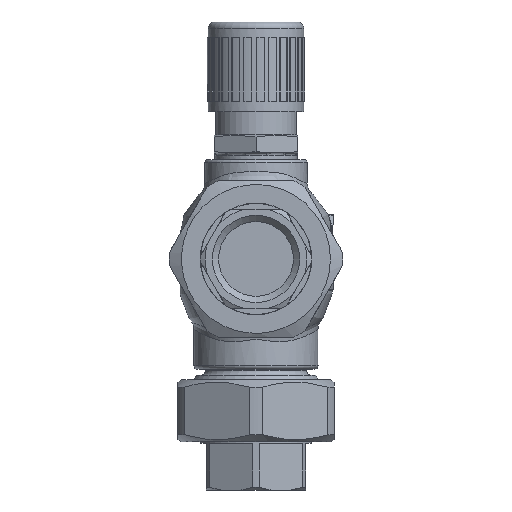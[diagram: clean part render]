
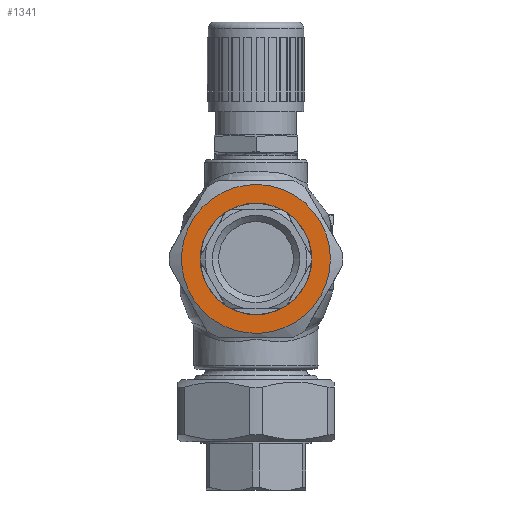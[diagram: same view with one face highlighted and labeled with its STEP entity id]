
A CAD part, left-side view. The second image highlights one B-rep face of the part: STEP entity #1341.
In plain terms, the highlighted planar face has unit normal (-1, 0, 0).
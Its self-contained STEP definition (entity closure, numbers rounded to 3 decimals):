
#813=PLANE('',#5959);
#1092=FACE_BOUND('',#2076,.T.);
#1093=FACE_BOUND('',#2077,.T.);
#1341=ADVANCED_FACE('',(#1092,#1093),#813,.T.);
#2076=EDGE_LOOP('',(#3057));
#2077=EDGE_LOOP('',(#3058));
#2558=CIRCLE('',#5957,18.);
#2559=CIRCLE('',#5958,24.);
#3057=ORIENTED_EDGE('',*,*,#5041,.T.);
#3058=ORIENTED_EDGE('',*,*,#5042,.T.);
#4468=VERTEX_POINT('',#8536);
#4469=VERTEX_POINT('',#8538);
#5041=EDGE_CURVE('',#4468,#4468,#2558,.T.);
#5042=EDGE_CURVE('',#4469,#4469,#2559,.T.);
#5957=AXIS2_PLACEMENT_3D('',#8535,#6795,#6796);
#5958=AXIS2_PLACEMENT_3D('',#8537,#6797,#6798);
#5959=AXIS2_PLACEMENT_3D('',#8539,#6799,#6800);
#6795=DIRECTION('',(1.,0.,0.));
#6796=DIRECTION('',(0.,1.,0.));
#6797=DIRECTION('',(-1.,0.,0.));
#6798=DIRECTION('',(0.,-1.,0.));
#6799=DIRECTION('',(-1.,0.,0.));
#6800=DIRECTION('',(0.,-1.,0.));
#8535=CARTESIAN_POINT('',(41.,0.,100.));
#8536=CARTESIAN_POINT('',(41.,18.,100.));
#8537=CARTESIAN_POINT('',(41.,0.,100.));
#8538=CARTESIAN_POINT('',(41.,-24.,100.));
#8539=CARTESIAN_POINT('',(41.,0.,100.));
